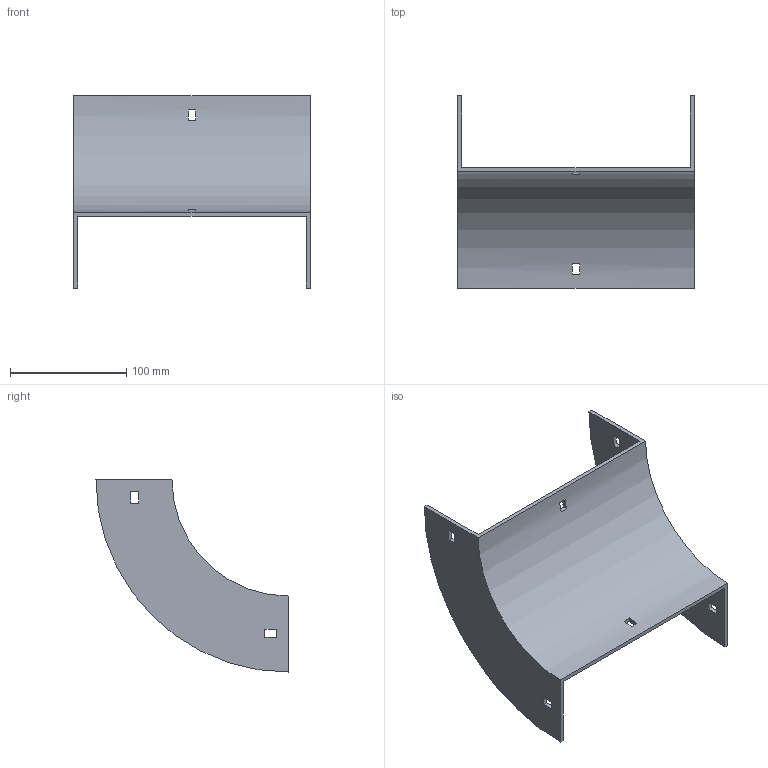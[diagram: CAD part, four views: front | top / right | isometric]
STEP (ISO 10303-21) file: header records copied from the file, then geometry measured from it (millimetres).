
FILE_DESCRIPTION (( 'STEP AP214' ), '1' );
FILE_NAME ('33B1H200.step', '2025-02-21T09:32:05', ( '' ), ( '' ), 'SwSTEP 2.0', 'SolidWorks 2023', '' );
FILE_SCHEMA (( 'AUTOMOTIVE_DESIGN' ));
Length unit declared in the file: millimetre
Products named in the file (1): 33B1H200
Bounding box: 204 x 165.5 x 165.5 mm (x, y, z)
Volume: 204414.5 mm3; surface area: 121600.9 mm2
Topology: 1 solids, 1 shells, 34 faces, 96 edges, 64 vertices
Faces by surface type: plane 30, cylinder 4
Entity records: 1143 total; most frequent: CARTESIAN_POINT 195, ORIENTED_EDGE 192, DIRECTION 182, EDGE_CURVE 96, VECTOR 80, LINE 80, VERTEX_POINT 64, AXIS2_PLACEMENT_3D 51
